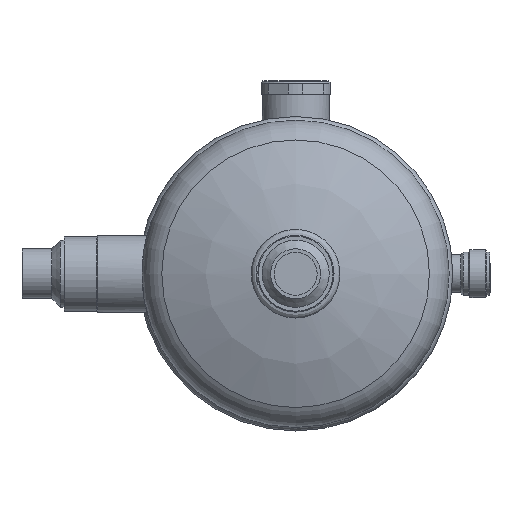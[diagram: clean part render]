
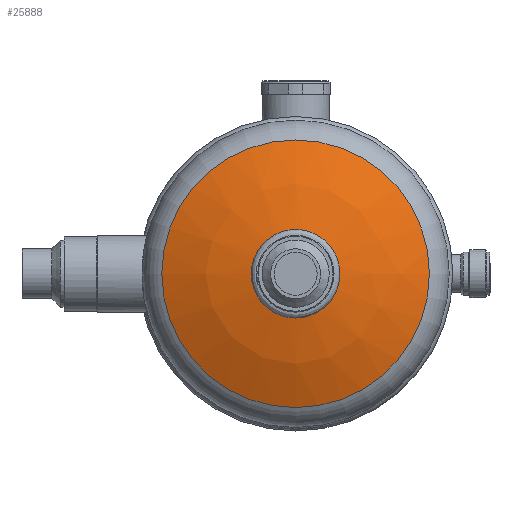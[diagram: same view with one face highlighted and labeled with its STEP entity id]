
A CAD part, front view. The second image highlights one B-rep face of the part: STEP entity #25888.
In plain terms, the highlighted free-form (B-spline) face has degree [2, 2] with [3, 9] control points.
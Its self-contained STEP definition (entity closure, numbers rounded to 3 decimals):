
#51=(
BOUNDED_CURVE()
B_SPLINE_CURVE(2,(#56235,#56236,#56237),.UNSPECIFIED.,.F.,.F.)
B_SPLINE_CURVE_WITH_KNOTS((3,3),(-1.429,-1.13),
 .UNSPECIFIED.)
CURVE()
GEOMETRIC_REPRESENTATION_ITEM()
RATIONAL_B_SPLINE_CURVE((1.,0.989,1.))
REPRESENTATION_ITEM('')
);
#73=(
BOUNDED_SURFACE()
B_SPLINE_SURFACE(2,2,((#56208,#56209,#56210,#56211,#56212,#56213,#56214,
#56215,#56216),(#56217,#56218,#56219,#56220,#56221,#56222,#56223,#56224,
#56225),(#56226,#56227,#56228,#56229,#56230,#56231,#56232,#56233,#56234)),
 .UNSPECIFIED.,.F.,.T.,.F.)
B_SPLINE_SURFACE_WITH_KNOTS((3,3),(3,2,2,2,3),(1.13,1.429),
(-3.142,-1.571,0.,1.571,3.142),
 .UNSPECIFIED.)
GEOMETRIC_REPRESENTATION_ITEM()
RATIONAL_B_SPLINE_SURFACE(((1.,0.707,1.,0.707,1.,
0.707,1.,0.707,1.),(0.989,0.699,
0.989,0.699,0.989,0.699,
0.989,0.699,0.989),(1.,0.707,
1.,0.707,1.,0.707,1.,0.707,1.)))
REPRESENTATION_ITEM('')
SURFACE()
);
#8079=FACE_OUTER_BOUND('',#9653,.T.);
#9653=EDGE_LOOP('',(#23854,#23855,#23856,#23857,#23858,#23859));
#10263=CIRCLE('',#27605,23.074);
#10264=CIRCLE('',#27606,23.074);
#10272=CIRCLE('',#27621,69.689);
#10273=CIRCLE('',#27622,69.689);
#12767=VERTEX_POINT('',#56177);
#12768=VERTEX_POINT('',#56178);
#12776=VERTEX_POINT('',#56202);
#12777=VERTEX_POINT('',#56203);
#16506=EDGE_CURVE('',#12767,#12768,#10263,.T.);
#16507=EDGE_CURVE('',#12768,#12767,#10264,.T.);
#16515=EDGE_CURVE('',#12776,#12777,#10272,.T.);
#16516=EDGE_CURVE('',#12777,#12776,#10273,.T.);
#16517=EDGE_CURVE('',#12768,#12777,#51,.T.);
#23854=ORIENTED_EDGE('',*,*,#16506,.T.);
#23855=ORIENTED_EDGE('',*,*,#16517,.T.);
#23856=ORIENTED_EDGE('',*,*,#16516,.T.);
#23857=ORIENTED_EDGE('',*,*,#16515,.T.);
#23858=ORIENTED_EDGE('',*,*,#16517,.F.);
#23859=ORIENTED_EDGE('',*,*,#16507,.T.);
#25888=ADVANCED_FACE('',(#8079),#73,.F.);
#27605=AXIS2_PLACEMENT_3D('',#56179,#32650,#32651);
#27606=AXIS2_PLACEMENT_3D('',#56180,#32652,#32653);
#27621=AXIS2_PLACEMENT_3D('',#56204,#32682,#32683);
#27622=AXIS2_PLACEMENT_3D('',#56205,#32684,#32685);
#32650=DIRECTION('center_axis',(0.,1.,0.));
#32651=DIRECTION('ref_axis',(0.,0.,1.));
#32652=DIRECTION('center_axis',(0.,1.,0.));
#32653=DIRECTION('ref_axis',(0.,0.,1.));
#32682=DIRECTION('center_axis',(0.,-1.,0.));
#32683=DIRECTION('ref_axis',(0.,0.,
1.));
#32684=DIRECTION('center_axis',(0.,-1.,0.));
#32685=DIRECTION('ref_axis',(0.,0.,
1.));
#56177=CARTESIAN_POINT('',(-23.074,-390.924,0.));
#56178=CARTESIAN_POINT('',(23.074,-390.924,0.));
#56179=CARTESIAN_POINT('Origin',(0.,-390.924,0.));
#56180=CARTESIAN_POINT('Origin',(0.,-390.924,0.));
#56202=CARTESIAN_POINT('',(0.,-376.951,69.689));
#56203=CARTESIAN_POINT('',(69.689,-376.951,0.));
#56204=CARTESIAN_POINT('Origin',(0.,-376.951,
0.));
#56205=CARTESIAN_POINT('Origin',(0.,-376.951,
0.));
#56208=CARTESIAN_POINT('Ctrl Pts',(69.689,-376.951,0.));
#56209=CARTESIAN_POINT('Ctrl Pts',(69.689,-376.951,69.689));
#56210=CARTESIAN_POINT('Ctrl Pts',(0.,-376.951,
69.689));
#56211=CARTESIAN_POINT('Ctrl Pts',(-69.689,-376.951,
69.689));
#56212=CARTESIAN_POINT('Ctrl Pts',(-69.689,-376.951,0.));
#56213=CARTESIAN_POINT('Ctrl Pts',(-69.689,-376.951,
-69.689));
#56214=CARTESIAN_POINT('Ctrl Pts',(0.,-376.951,
-69.689));
#56215=CARTESIAN_POINT('Ctrl Pts',(69.689,-376.951,-69.689));
#56216=CARTESIAN_POINT('Ctrl Pts',(69.689,-376.951,0.));
#56217=CARTESIAN_POINT('Ctrl Pts',(47.436,-387.456,0.));
#56218=CARTESIAN_POINT('Ctrl Pts',(47.436,-387.456,47.436));
#56219=CARTESIAN_POINT('Ctrl Pts',(0.,-387.456,
47.436));
#56220=CARTESIAN_POINT('Ctrl Pts',(-47.436,-387.456,47.436));
#56221=CARTESIAN_POINT('Ctrl Pts',(-47.436,-387.456,0.));
#56222=CARTESIAN_POINT('Ctrl Pts',(-47.436,-387.456,
-47.436));
#56223=CARTESIAN_POINT('Ctrl Pts',(0.,-387.456,
-47.436));
#56224=CARTESIAN_POINT('Ctrl Pts',(47.436,-387.456,-47.436));
#56225=CARTESIAN_POINT('Ctrl Pts',(47.436,-387.456,0.));
#56226=CARTESIAN_POINT('Ctrl Pts',(23.074,-390.924,0.));
#56227=CARTESIAN_POINT('Ctrl Pts',(23.074,-390.924,23.074));
#56228=CARTESIAN_POINT('Ctrl Pts',(0.,-390.924,
23.074));
#56229=CARTESIAN_POINT('Ctrl Pts',(-23.074,-390.924,
23.074));
#56230=CARTESIAN_POINT('Ctrl Pts',(-23.074,-390.924,
0.));
#56231=CARTESIAN_POINT('Ctrl Pts',(-23.074,-390.924,
-23.074));
#56232=CARTESIAN_POINT('Ctrl Pts',(0.,-390.924,
-23.074));
#56233=CARTESIAN_POINT('Ctrl Pts',(23.074,-390.924,-23.074));
#56234=CARTESIAN_POINT('Ctrl Pts',(23.074,-390.924,0.));
#56235=CARTESIAN_POINT('Ctrl Pts',(23.074,-390.924,0.));
#56236=CARTESIAN_POINT('Ctrl Pts',(47.436,-387.456,0.));
#56237=CARTESIAN_POINT('Ctrl Pts',(69.689,-376.951,0.));
